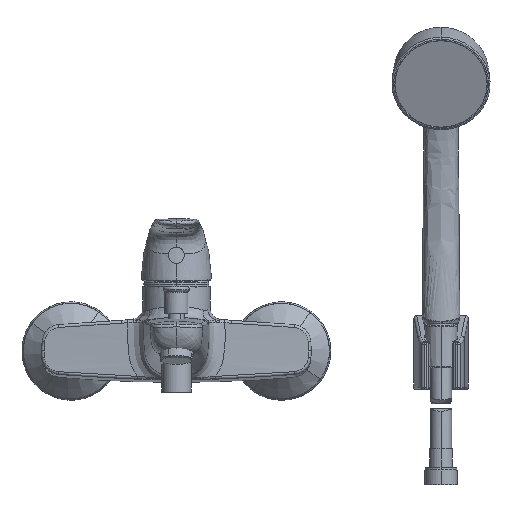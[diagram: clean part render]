
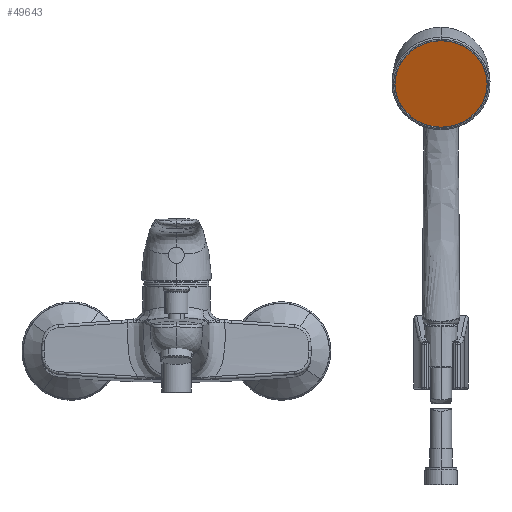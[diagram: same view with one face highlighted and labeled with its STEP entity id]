
A CAD part, top view. The second image highlights one B-rep face of the part: STEP entity #49643.
In plain terms, the highlighted planar face has unit normal (0, -0.346, 0.938).
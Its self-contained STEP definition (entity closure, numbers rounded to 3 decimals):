
#1109 = CARTESIAN_POINT ( 'NONE',  ( 188.543, 190.115, 79.754 ) ) ;
#2833 = EDGE_CURVE ( 'NONE', #25609, #43668, #3226, .T. ) ;
#3226 = CIRCLE ( 'NONE', #35214, 32.75 ) ;
#3722 = CARTESIAN_POINT ( 'NONE',  ( 188.543, 190.115, 79.754 ) ) ;
#5381 = DIRECTION ( 'NONE',  ( 0., 0.938, 0.346 ) ) ;
#7951 = DIRECTION ( 'NONE',  ( 0., 0.938, 0.346 ) ) ;
#10288 = ORIENTED_EDGE ( 'NONE', *, *, #2833, .T. ) ;
#10712 = AXIS2_PLACEMENT_3D ( 'NONE', #1109, #30973, #5381 ) ;
#11629 = EDGE_LOOP ( 'NONE', ( #10288, #17943 ) ) ;
#12084 = CARTESIAN_POINT ( 'NONE',  ( 188.543, 220.841, 91.089 ) ) ;
#15061 = CIRCLE ( 'NONE', #10712, 32.75 ) ;
#17943 = ORIENTED_EDGE ( 'NONE', *, *, #23795, .T. ) ;
#22846 = DIRECTION ( 'NONE',  ( 0., 0.346, -0.938 ) ) ;
#23795 = EDGE_CURVE ( 'NONE', #43668, #25609, #15061, .T. ) ;
#25609 = VERTEX_POINT ( 'NONE', #44319 ) ;
#29131 = AXIS2_PLACEMENT_3D ( 'NONE', #47825, #22846, #52427 ) ;
#30973 = DIRECTION ( 'NONE',  ( 0., -0.346, 0.938 ) ) ;
#33571 = DIRECTION ( 'NONE',  ( 0., -0.346, 0.938 ) ) ;
#35214 = AXIS2_PLACEMENT_3D ( 'NONE', #3722, #33571, #7951 ) ;
#39709 = PLANE ( 'NONE',  #29131 ) ;
#43668 = VERTEX_POINT ( 'NONE', #12084 ) ;
#44319 = CARTESIAN_POINT ( 'NONE',  ( 188.543, 159.389, 68.419 ) ) ;
#47825 = CARTESIAN_POINT ( 'NONE',  ( 192.766, 124.924, 55.705 ) ) ;
#48688 = FACE_OUTER_BOUND ( 'NONE', #11629, .T. ) ;
#49643 = ADVANCED_FACE ( 'NONE', ( #48688 ), #39709, .F. ) ;
#52427 = DIRECTION ( 'NONE',  ( 0., 0.938, 0.346 ) ) ;
